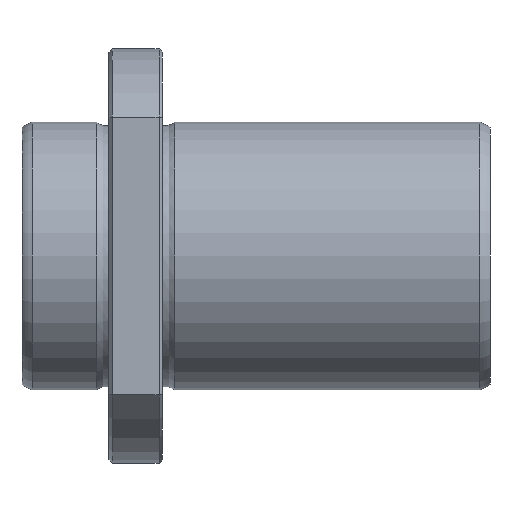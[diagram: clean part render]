
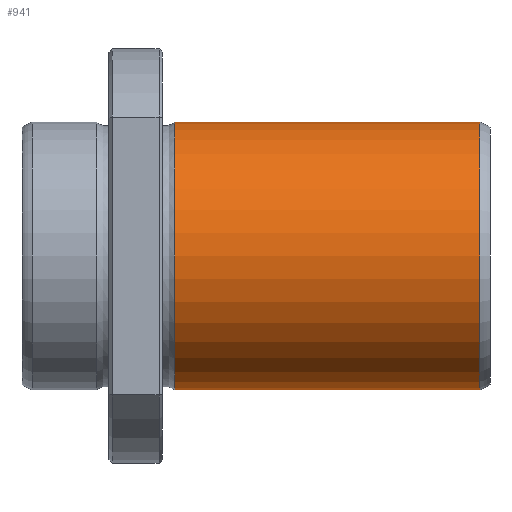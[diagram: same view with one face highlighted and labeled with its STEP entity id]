
A CAD part, front view. The second image highlights one B-rep face of the part: STEP entity #941.
In plain terms, the highlighted cylindrical face has radius 20 mm (diameter 40 mm), a full revolution.
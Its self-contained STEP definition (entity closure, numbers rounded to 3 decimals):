
#907=CARTESIAN_POINT('',(68.502,0.0,20.));
#908=VERTEX_POINT('',#907);
#909=CARTESIAN_POINT('',(68.502,0.0,0.0));
#910=DIRECTION('',(-1.0,0.0,0.0));
#911=DIRECTION('',(0.0,0.0,1.0));
#912=AXIS2_PLACEMENT_3D('',#909,#910,#911);
#913=CIRCLE('',#912,20.);
#914=EDGE_CURVE('',#908,#908,#913,.T.);
#922=CARTESIAN_POINT('',(45.662,0.0,0.0));
#923=DIRECTION('',(-1.0,0.0,0.0));
#924=DIRECTION('',(0.0,0.0,1.0));
#925=AXIS2_PLACEMENT_3D('',#922,#923,#924);
#926=CYLINDRICAL_SURFACE('',#925,20.);
#927=CARTESIAN_POINT('',(22.823,0.0,20.));
#928=VERTEX_POINT('',#927);
#929=CARTESIAN_POINT('',(22.823,0.0,0.0));
#930=DIRECTION('',(-1.0,0.0,0.0));
#931=DIRECTION('',(0.0,0.0,1.0));
#932=AXIS2_PLACEMENT_3D('',#929,#930,#931);
#933=CIRCLE('',#932,20.);
#934=EDGE_CURVE('',#928,#928,#933,.T.);
#935=ORIENTED_EDGE('',*,*,#934,.F.);
#936=EDGE_LOOP('',(#935));
#937=FACE_OUTER_BOUND('',#936,.T.);
#938=ORIENTED_EDGE('',*,*,#914,.T.);
#939=EDGE_LOOP('',(#938));
#940=FACE_BOUND('',#939,.T.);
#941=ADVANCED_FACE('',(#937,#940),#926,.T.);
